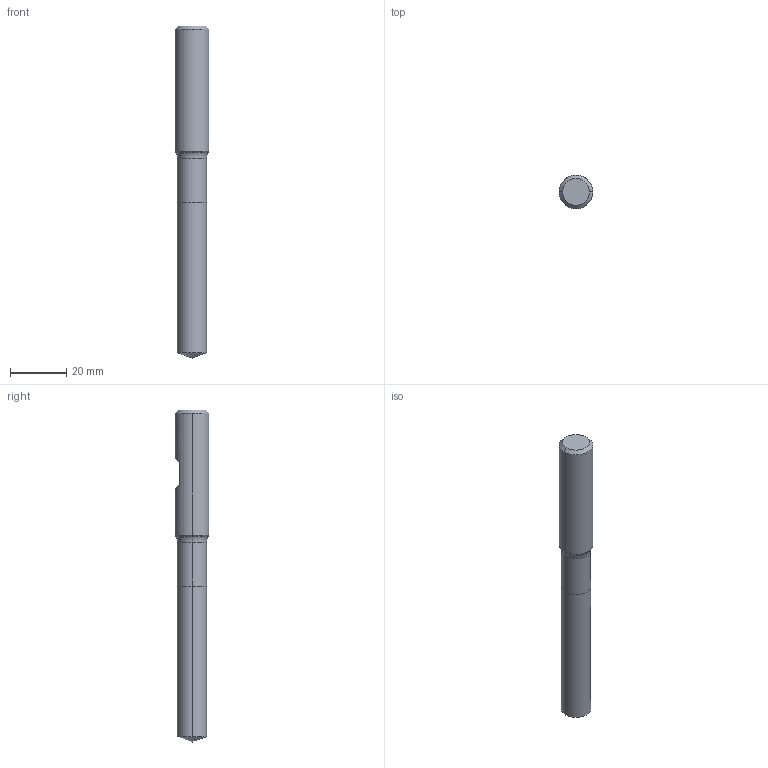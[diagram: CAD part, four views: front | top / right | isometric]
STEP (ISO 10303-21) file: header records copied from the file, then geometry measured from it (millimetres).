
FILE_DESCRIPTION (( 'STEP AP214' ), '1' );
FILE_NAME ('905.104.10_3D-model.step', '2022-02-24T18:42:09', ( '' ), ( '' ), 'SwSTEP 2.0', 'SolidWorks 2020', '' );
FILE_SCHEMA (( 'AUTOMOTIVE_DESIGN' ));
Length unit declared in the file: millimetre
Products named in the file (3): 905.104.10_3D-model; NOCUT-3D^Baugr7; CUT-3D^Baugr7
Assembly tree (2 placements, depth 2):
  905.104.10_3D-model
    CUT-3D^Baugr7
    NOCUT-3D^Baugr7
Bounding box: 12 x 12 x 118 mm (x, y, z)
Volume: 11084.3 mm3; surface area: 4372.3 mm2
Topology: 2 solids, 2 shells, 20 faces, 38 edges, 21 vertices
Faces by surface type: cone 6, cylinder 6, plane 6, torus 2
Entity records: 608 total; most frequent: DIRECTION 108, CARTESIAN_POINT 91, ORIENTED_EDGE 72, AXIS2_PLACEMENT_3D 46, EDGE_CURVE 36, EDGE_LOOP 21, VERTEX_POINT 21, ADVANCED_FACE 20
